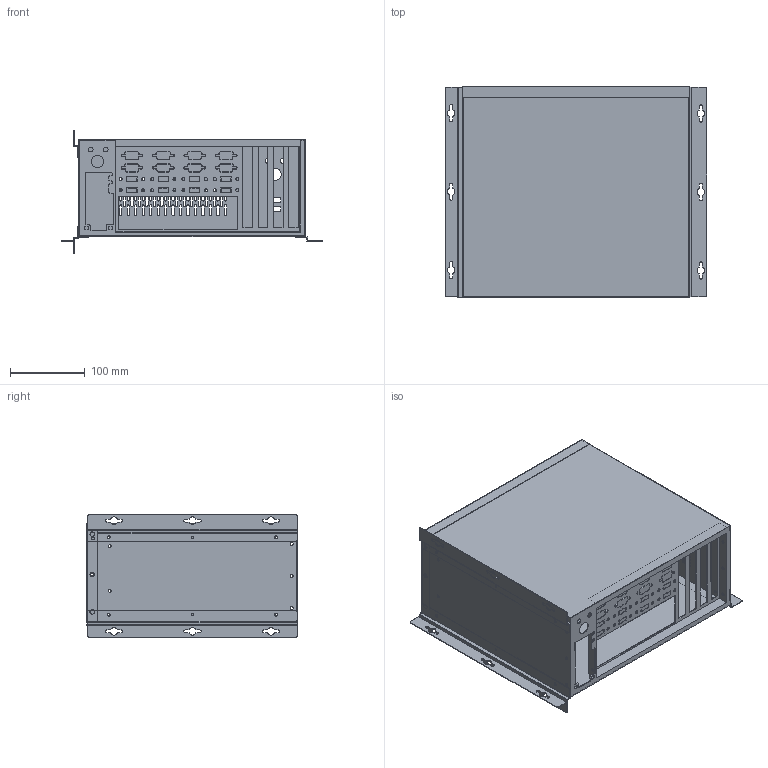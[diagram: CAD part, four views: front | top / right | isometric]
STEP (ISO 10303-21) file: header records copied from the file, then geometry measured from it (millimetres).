
FILE_DESCRIPTION (( 'STEP AP203' ), '1' );
FILE_NAME ('IPC-403 虴彆芞 2024 4-15.STEP', '2024-04-15T13:42:05', ( 'User' ), ( 'China' ), 'SwSTEP 2.0', 'SolidWorks 2020', '' );
FILE_SCHEMA (( 'CONFIG_CONTROL_DESIGN' ));
Products named in the file (1): IPC-403  虴彆芞   2024  4-15
Bounding box: 350 x 281.7 x 164.3 mm (x, y, z)
Volume: 374922.3 mm3; surface area: 674817.1 mm2
Topology: 1 solids, 1 shells, 1570 faces, 4659 edges, 3098 vertices
Faces by surface type: plane 923, cylinder 633, cone 14
Entity records: 53688 total; most frequent: CARTESIAN_POINT 9346, ORIENTED_EDGE 9318, DIRECTION 9079, EDGE_CURVE 4659, VECTOR 3369, LINE 3369, VERTEX_POINT 3098, AXIS2_PLACEMENT_3D 2855
